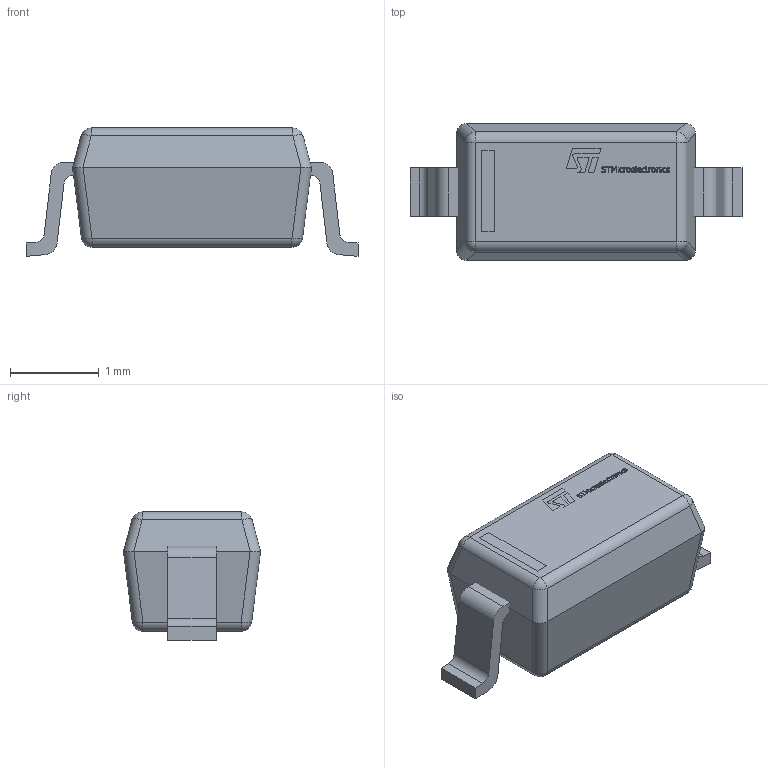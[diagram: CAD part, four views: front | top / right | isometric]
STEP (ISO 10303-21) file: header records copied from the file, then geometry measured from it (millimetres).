
FILE_DESCRIPTION(/* description */ (''),/* implementation_level */ '2;1');
FILE_NAME(/* name */ 'C:\Users\k\Desktop\SOD 123 My drawing 1.55x2.7x0.55x3.75\1.stp',/* time_stamp */ '2019-07-23T12:21:13+02:00',/* author */ ('k'),/* organization */ (''),/* preprocessor_version */ 'ST-DEVELOPER v15.6',/* originating_system */ 'Autodesk Inventor 2015',/* authorisation */ '');
FILE_SCHEMA (('AUTOMOTIVE_DESIGN { 1 0 10303 214 3 1 1 }'));
Length unit declared in the file: millimetre
Products named in the file (5): 1; 2; 3; STM Logo
Bounding box: 3.75 x 1.55 x 1.45 mm (x, y, z)
Volume: 5.2 mm3; surface area: 22.1 mm2
Topology: 25 solids, 25 shells, 356 faces, 894 edges, 588 vertices
Faces by surface type: plane 189, bspline 129, cylinder 30, sphere 8
Entity records: 11347 total; most frequent: CARTESIAN_POINT 3524, ORIENTED_EDGE 1788, DIRECTION 1172, EDGE_CURVE 894, VERTEX_POINT 588, LINE 572, VECTOR 572, EDGE_LOOP 364
